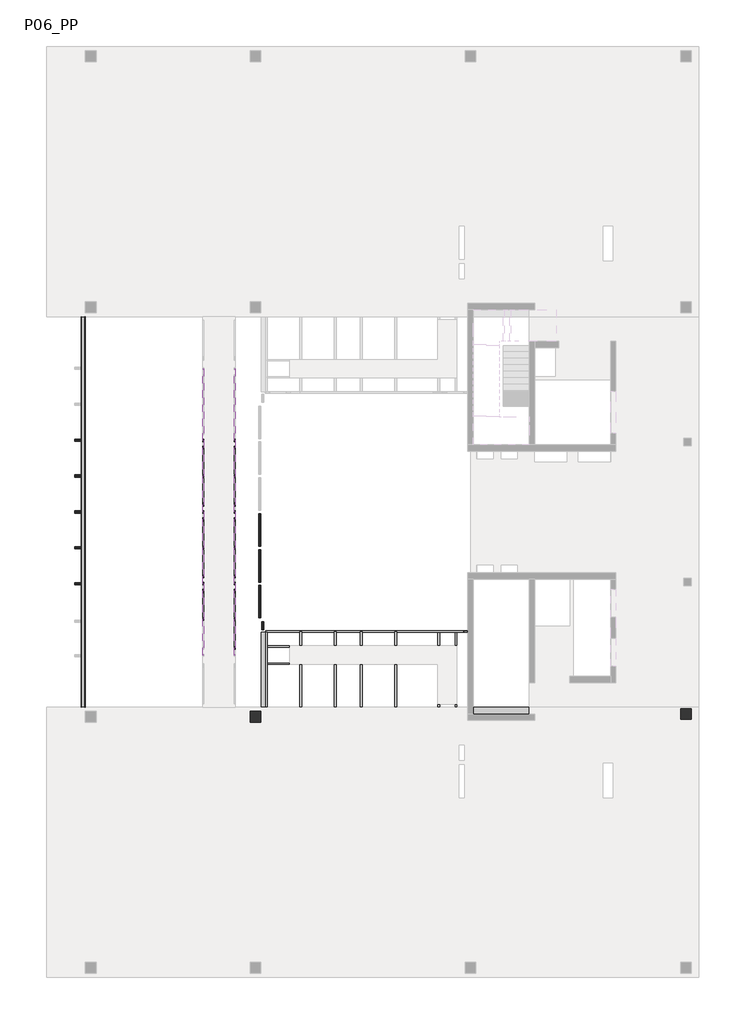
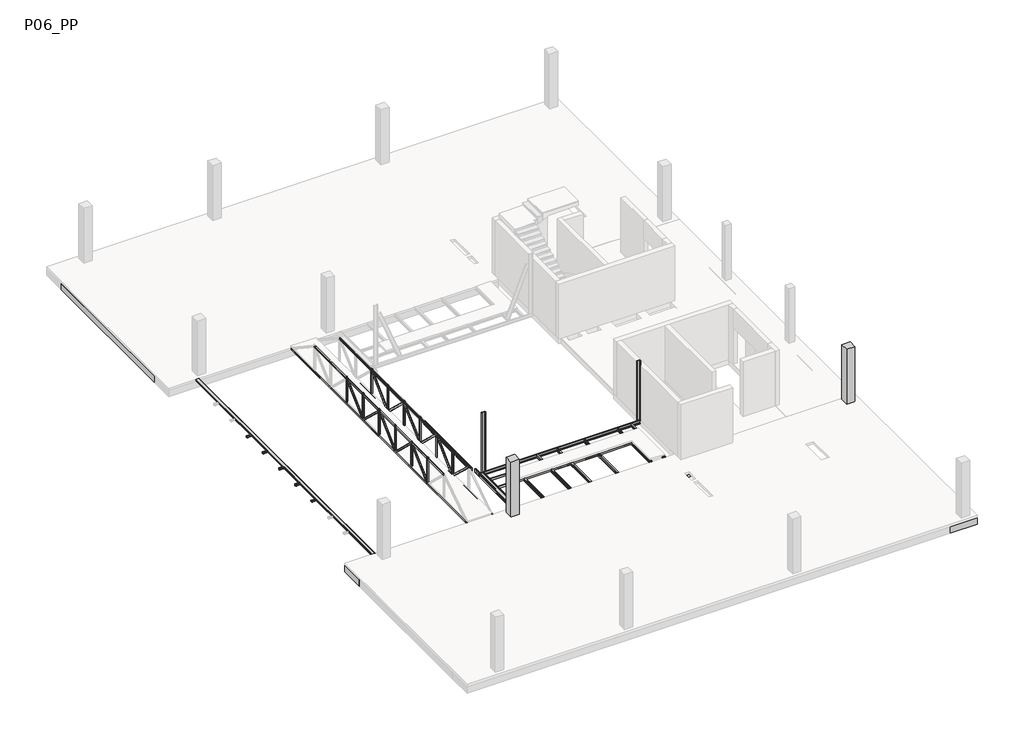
# One storey, part 2 of 4: 73 beams, 4 columns.
"""IFC4 building model written with IfcOpenShell, lengths in millimetres."""

from ifc_helpers import new_model, si_unit, frame, origin, place, context, project, spatial, polyline, outline, extrude, faceted_brep, transform, mapped, element, save
from components import heb_180x180_772428e8, m_hss_rectangular_hss_100x100_2c18bcb8, m_hss_rectangular_hss_100x100_facdedd0, m_hss_rectangular_hss_200x100_02db10bf, m_hss_rectangular_hss_200x100_fa2a969a, m_hss_rectangular_hss_200x100_f713b872, m_hss_rectangular_hss_200x100_80d761ef, m_hss_rectangular_hss_200x100_71414934, ub_universal_beams_ipe_160x82_5295c27c, ub_universal_beams_ipe_160x82_633517aa, upn100x50_d6a2ed97, upn100x50_1be225a0, upn100x50_5791aac8, upn100x50_3af1e818, upn100x50_d5197bc7, upn100x50_399e2a19, upn100x50_abb258e1, upn100x50_21efe051, upn100x50_1668a3c5, upn100x50_bf4f13ef, upn100x50_19d9e79e, upn100x50_c16297ee, upn100x50_7fc6c248, upn100x50_641ecec3, upn100x50_40f5e142, upn100x50_5b4b934f, upn100x50_6a18d03b, upn100x50_04313b9f, upn100x50_0c5ca5da, upn120x55_69f0bca1, upn120x55_efc8f615, upn120x55_2e91fe93, upn120x55_dd576345, upn120x55_d7d90911, upn200x75_1e45fa6e, upn_200x75_f21e3de1

model = new_model("IFC4")

# Units and contexts
model_context = context("Model", 3, world=origin())
ifc_project = project(units=[si_unit("LENGTHUNIT", "METRE", prefix="MILLI")], contexts=[model_context])

# Site, building, storey
site = spatial("IfcSite", under=ifc_project)
building = spatial("IfcBuilding", under=site)
storey = spatial("IfcBuildingStorey", under=building, Name="P06_PP", Elevation=29910.0)

# Beams
placement = place(None, origin())
heb_180x180_shape = heb_180x180_772428e8(model_context)
element("IfcBeam", 1, ObjectType="M_HP-Bearing Pile : HEB 180x180", at=placement, inside=storey, context=model_context, shape_type="MappedRepresentation", body=[
    mapped(heb_180x180_shape, transform((-23130.357866, -3177.0866476, 29820.0), x_axis=(0.0, -1.0, 0.0), y_axis=(1.0, 0.0, 0.0), z_axis=(0.0, 0.0, 1.0))),
])
element("IfcBeam", 2, ObjectType="M_Concrete-Rectangular Beam : 1500 x 550mm", at=placement, inside=storey, context=model_context, shape_type="Brep", body=[
    faceted_brep([(-10790.2146087, -4560.5861501, 29910.0), (-13390.3216429, -4560.5861501, 29910.0), (-13390.3216429, -4885.1039312, 29910.0), (-10790.2146087, -4885.1039312, 29910.0), (-33190.2931093, -6060.5861501, 29360.0), (-32490.2931093, -6060.5861501, 29360.0), (-31216.2708024, -6060.5861501, 29360.0), (-30816.2708024, -6060.5861501, 29360.0), (-29549.6041367, -6060.5861501, 29360.0), (-29149.6041367, -6060.5861501, 29360.0), (-27882.9374731, -6060.5861501, 29360.0), (-27482.9374731, -6060.5861501, 29360.0), (-26216.2708089, -6060.5861501, 29360.0), (-25816.2708089, -6060.5861501, 29360.0), (-24549.6041453, -6060.5861501, 29360.0), (-24149.6041453, -6060.5861501, 29360.0), (-22882.9374805, -6060.5861501, 29360.0), (-22482.9374805, -6060.5861501, 29360.0), (-21216.2708168, -6060.5861501, 29360.0), (-20816.2708168, -6060.5861501, 29360.0), (-19549.6041539, -6060.5861501, 29360.0), (-19149.6041539, -6060.5861501, 29360.0), (-17882.9374898, -6060.5861501, 29360.0), (-17482.9374898, -6060.5861501, 29360.0), (-16216.2708252, -6060.5861501, 29360.0), (-15816.2708252, -6060.5861501, 29360.0), (-14549.604161, -6060.5861501, 29360.0), (-14149.604161, -6060.5861501, 29360.0), (-12882.9374977, -6060.5861501, 29360.0), (-12482.9374977, -6060.5861501, 29360.0), (-11216.2708336, -6060.5861501, 29360.0), (-10816.2708336, -6060.5861501, 29360.0), (-9549.6041702, -6060.5861501, 29360.0), (-9149.6041702, -6060.5861501, 29360.0), (-7882.9375051, -6060.5861501, 29360.0), (-7482.9375051, -6060.5861501, 29360.0), (-6216.2708415, -6060.5861501, 29360.0), (-5816.2708415, -6060.5861501, 29360.0), (-4553.6343046, -6060.5861501, 29360.0), (-2913.6343046, -6060.5861501, 29360.0), (-2913.6343046, -6060.5861501, 29760.0), (-4553.6343046, -6060.5861501, 29760.0), (-5816.2708415, -6060.5861501, 29760.0), (-6216.2708415, -6060.5861501, 29760.0), (-7482.9375051, -6060.5861501, 29760.0), (-7882.9375051, -6060.5861501, 29760.0), (-9149.6041702, -6060.5861501, 29760.0), (-9549.6041702, -6060.5861501, 29760.0), (-10816.2708336, -6060.5861501, 29760.0), (-11216.2708336, -6060.5861501, 29760.0), (-12482.9374977, -6060.5861501, 29760.0), (-12882.9374977, -6060.5861501, 29760.0), (-14149.604161, -6060.5861501, 29760.0), (-14549.604161, -6060.5861501, 29760.0), (-15816.2708252, -6060.5861501, 29760.0), (-16216.2708252, -6060.5861501, 29760.0), (-17482.9374898, -6060.5861501, 29760.0), (-17882.9374898, -6060.5861501, 29760.0), (-19149.6041539, -6060.5861501, 29760.0), (-19549.6041539, -6060.5861501, 29760.0), (-20816.2708168, -6060.5861501, 29760.0), (-21216.2708168, -6060.5861501, 29760.0), (-22482.9374805, -6060.5861501, 29760.0), (-22882.9374805, -6060.5861501, 29760.0), (-24149.6041453, -6060.5861501, 29760.0), (-24549.6041453, -6060.5861501, 29760.0), (-25816.2708089, -6060.5861501, 29760.0), (-26216.2708089, -6060.5861501, 29760.0), (-27482.9374731, -6060.5861501, 29760.0), (-27882.9374731, -6060.5861501, 29760.0), (-29149.6041367, -6060.5861501, 29760.0), (-29549.6041367, -6060.5861501, 29760.0), (-30816.2708024, -6060.5861501, 29760.0), (-31216.2708024, -6060.5861501, 29760.0), (-32490.2931093, -6060.5861501, 29760.0), (-33190.2931093, -6060.5861501, 29760.0), (-33190.2931093, -4560.5861501, 29360.0), (-13640.3216429, -4560.5861501, 29360.0), (-13640.3216429, -5185.1039323, 29360.0), (-10540.3248425, -5185.1039323, 29360.0), (-10540.3248425, -4885.1039323, 29360.0), (-13390.3216429, -4885.1039323, 29360.0), (-13390.3216429, -4560.5861501, 29360.0), (-2913.6343046, -4560.5861501, 29360.0), (-3266.3636743, -5135.2475016, 29360.0), (-3266.3636607, -4635.2475016, 29360.0), (-3766.3636607, -4635.247488, 29360.0), (-3766.3636743, -5135.247488, 29360.0), (-23240.9136132, -5260.4373519, 29360.0), (-23240.913614, -4760.4373519, 29360.0), (-23740.913614, -4760.4373527, 29360.0), (-23740.9136132, -5260.4373527, 29360.0), (-30890.9555801, -5260.4373566, 29360.0), (-30890.9555797, -4760.4373566, 29360.0), (-31390.9555797, -4760.4373562, 29360.0), (-31390.9555801, -5260.4373562, 29360.0), (-13390.3216429, -4560.5861501, 29609.9777344), (-13640.3216429, -4560.5861501, 29609.9777344), (-33190.2931093, -4560.5861501, 29760.0), (-13390.3216429, -4560.5861501, 29760.0), (-10790.2146087, -4560.5861501, 29760.0), (-2913.6343046, -4560.5861501, 29760.0), (-2913.6343046, -4560.5861501, 29610.0), (-3266.3636743, -5135.2475016, 29610.0), (-3266.3636607, -4635.2475016, 29610.0), (-3766.3636743, -5135.247488, 29610.0), (-3766.3636607, -4635.247488, 29610.0), (-23240.9136132, -5260.4373519, 29610.0), (-23240.913614, -4760.4373519, 29610.0), (-23740.9136132, -5260.4373527, 29610.0), (-23740.913614, -4760.4373527, 29610.0), (-30890.9555801, -5260.4373566, 29610.0), (-30890.9555797, -4760.4373566, 29610.0), (-31390.9555801, -5260.4373562, 29610.0), (-31390.9555797, -4760.4373562, 29610.0), (-10540.3248425, -4885.1039323, 29609.9777344), (-13390.3216429, -4885.1039323, 29609.9777344), (-13640.3216429, -5185.1039323, 29609.9777344), (-10540.3248425, -5185.1039323, 29609.9777344), (-13640.3216429, -4885.1039323, 29609.9777344), (-13390.3216429, -4885.1039312, 29760.0), (-10790.2146087, -4885.1039312, 29760.0)], [[[0, 1, 2, 3]], [[4, 5, 6, 7, 8, 9, 10, 11, 12, 13, 14, 15, 16, 17, 18, 19, 20, 21, 22, 23, 24, 25, 26, 27, 28, 29, 30, 31, 32, 33, 34, 35, 36, 37, 38, 39, 40, 41, 42, 43, 44, 45, 46, 47, 48, 49, 50, 51, 52, 53, 54, 55, 56, 57, 58, 59, 60, 61, 62, 63, 64, 65, 66, 67, 68, 69, 70, 71, 72, 73, 74, 75]], [[4, 76, 77, 78, 79, 80, 81, 82, 83, 39, 38, 37, 36, 35, 34, 33, 32, 31, 30, 29, 28, 27, 26, 25, 24, 23, 22, 21, 20, 19, 18, 17, 16, 15, 14, 13, 12, 11, 10, 9, 8, 7, 6, 5], [84, 85, 86, 87], [88, 89, 90, 91], [92, 93, 94, 95]], [[83, 82, 96, 97, 77, 76, 98, 99, 1, 0, 100, 101, 102]], [[76, 4, 75, 98]], [[39, 83, 102, 101, 40]], [[103, 104, 85, 84]], [[105, 103, 84, 87]], [[106, 105, 87, 86]], [[104, 106, 86, 85]], [[104, 103, 105, 106]], [[107, 108, 89, 88]], [[109, 107, 88, 91]], [[110, 109, 91, 90]], [[108, 110, 90, 89]], [[108, 107, 109, 110]], [[111, 112, 93, 92]], [[113, 111, 92, 95]], [[114, 113, 95, 94]], [[112, 114, 94, 93]], [[112, 111, 113, 114]], [[80, 115, 116, 81]], [[117, 118, 79, 78]], [[118, 117, 119, 97, 96, 116, 115]], [[118, 115, 80, 79]], [[117, 78, 77, 97, 119]], [[116, 96, 82, 81]], [[120, 99, 98, 75, 74, 73, 72, 71, 70, 69, 68, 67, 66, 65, 64, 63, 62, 61, 60, 59, 58, 57, 56, 55, 54, 53, 52, 51, 50, 49, 48, 47, 46, 45, 44, 43, 42, 41, 40, 101, 100, 121]], [[121, 100, 0, 3]], [[99, 120, 2, 1]], [[120, 121, 3, 2]]]),
])
element("IfcBeam", 3, ObjectType="M_Concrete-Rectangular Beam : 1640 x 550mm", at=placement, inside=storey, context=model_context, shape_type="Brep", body=[
    faceted_brep([(-4553.6343046, -6060.5861501, 29360.0), (-4553.6343046, -15610.5871866, 29360.0), (-4553.6343046, -17110.5871866, 29360.0), (-4553.6343046, -17110.5871866, 29760.0), (-4553.6343046, -15610.5871866, 29760.0), (-4553.6343046, -6060.5861501, 29760.0), (-2913.6343046, -6060.5861501, 29360.0), (-2913.6343046, -17110.5871866, 29360.0), (-3266.3636558, -16910.4373098, 29360.0), (-3266.3636507, -16410.4373098, 29360.0), (-3766.3636507, -16410.4373046, 29360.0), (-3766.3636558, -16910.4373046, 29360.0), (-2913.6343046, -6060.5861501, 29760.0), (-2913.6343046, -17110.5871866, 29760.0), (-3266.3636558, -16910.4373098, 29610.0), (-3266.3636507, -16410.4373098, 29610.0), (-3766.3636558, -16910.4373046, 29610.0), (-3766.3636507, -16410.4373046, 29610.0)], [[[0, 1, 2, 3, 4, 5]], [[0, 6, 7, 2, 1], [8, 9, 10, 11]], [[7, 6, 12, 13]], [[6, 0, 5, 12]], [[2, 7, 13, 3]], [[14, 15, 9, 8]], [[16, 14, 8, 11]], [[17, 16, 11, 10]], [[15, 17, 10, 9]], [[15, 14, 16, 17]], [[5, 4, 3, 13, 12]]]),
])
element("IfcBeam", 4, ObjectType="M_Concrete-Rectangular Beam : 400 x 550mm", at=placement, inside=storey, context=model_context, shape_type="SweptSolid", body=[
    extrude(outline(polyline([(-14549.604161, -6060.5861501), (-14149.604161, -6060.5861501), (-14149.604161, -15610.5871866), (-14549.604161, -15610.5871866), (-14549.604161, -6060.5861501)])), frame((0.0, 0.0, 29360.0), z_axis=(0.0, 0.0, 1.0), x_axis=(1.0, 0.0, 0.0)), (0.0, 0.0, 1.0), 400.0),
])
element("IfcBeam", 5, ObjectType="M_Concrete-Rectangular Beam : 400 x 550mm", at=placement, inside=storey, context=model_context, shape_type="SweptSolid", body=[
    extrude(outline(polyline([(-12882.9374977, -6060.5861501), (-12482.9374977, -6060.5861501), (-12482.9374977, -15610.5871866), (-12882.9374977, -15610.5871866), (-12882.9374977, -6060.5861501)])), frame((0.0, 0.0, 29360.0), z_axis=(0.0, 0.0, 1.0), x_axis=(1.0, 0.0, 0.0)), (0.0, 0.0, 1.0), 400.0),
])
element("IfcBeam", 6, ObjectType="M_Concrete-Rectangular Beam : 400 x 550mm", at=placement, inside=storey, context=model_context, shape_type="SweptSolid", body=[
    extrude(outline(polyline([(-11216.2708336, -6060.5861501), (-10816.2708336, -6060.5861501), (-10816.2708336, -15610.5871866), (-11216.2708336, -15610.5871866), (-11216.2708336, -6060.5861501)])), frame((0.0, 0.0, 29360.0), z_axis=(0.0, 0.0, 1.0), x_axis=(1.0, 0.0, 0.0)), (0.0, 0.0, 1.0), 400.0),
])
element("IfcBeam", 7, ObjectType="M_Concrete-Rectangular Beam : 400 x 550mm", at=placement, inside=storey, context=model_context, shape_type="SweptSolid", body=[
    extrude(outline(polyline([(-9549.6041702, -6060.5861501), (-9149.6041702, -6060.5861501), (-9149.6041702, -15610.5871866), (-9549.6041702, -15610.5871866), (-9549.6041702, -6060.5861501)])), frame((0.0, 0.0, 29360.0), z_axis=(0.0, 0.0, 1.0), x_axis=(1.0, 0.0, 0.0)), (0.0, 0.0, 1.0), 400.0),
])
element("IfcBeam", 8, ObjectType="M_Concrete-Rectangular Beam : 400 x 550mm", at=placement, inside=storey, context=model_context, shape_type="SweptSolid", body=[
    extrude(outline(polyline([(-7882.9375051, -6060.5861501), (-7482.9375051, -6060.5861501), (-7482.9375051, -15610.5871866), (-7882.9375051, -15610.5871866), (-7882.9375051, -6060.5861501)])), frame((0.0, 0.0, 29360.0), z_axis=(0.0, 0.0, 1.0), x_axis=(1.0, 0.0, 0.0)), (0.0, 0.0, 1.0), 400.0),
])
element("IfcBeam", 9, ObjectType="M_Concrete-Rectangular Beam : 400 x 550mm", at=placement, inside=storey, context=model_context, shape_type="SweptSolid", body=[
    extrude(outline(polyline([(-6216.2708415, -6060.5861501), (-5816.2708415, -6060.5861501), (-5816.2708415, -15610.5871866), (-6216.2708415, -15610.5871866), (-6216.2708415, -6060.5861501)])), frame((0.0, 0.0, 29360.0), z_axis=(0.0, 0.0, 1.0), x_axis=(1.0, 0.0, 0.0)), (0.0, 0.0, 1.0), 400.0),
])
element("IfcBeam", 10, ObjectType="M_Concrete-Rectangular Beam : 700 x 550mm", at=placement, inside=storey, context=model_context, shape_type="SweptSolid", body=[
    extrude(outline(polyline([(-32490.2931069, 15039.4134441), (-33190.2931069, 15039.4134441), (-33190.2931069, 24589.4144807), (-32490.2931069, 24589.4144807), (-32490.2931069, 15039.4134441)])), frame((0.0, 0.0, 29360.0), z_axis=(0.0, 0.0, 1.0), x_axis=(1.0, 0.0, 0.0)), (0.0, 0.0, 1.0), 400.0),
])
m_hss_rectangular_hss_100x100_shape = m_hss_rectangular_hss_100x100_2c18bcb8(model_context)
element("IfcBeam", 11, ObjectType="M_HSS Rectangular : HSS 100x100", at=placement, inside=storey, context=model_context, shape_type="MappedRepresentation", body=[
    mapped(m_hss_rectangular_hss_100x100_shape, transform((-31731.1858338, 7823.2960679, 29860.0), x_axis=(-1.0, -1.6625772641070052e-09, 0.0), y_axis=(1.6625772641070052e-09, -1.0, 0.0), z_axis=(0.0, 0.0, 1.0))),
])
element("IfcBeam", 12, ObjectType="M_HSS Rectangular : HSS 100x100", at=placement, inside=storey, context=model_context, shape_type="MappedRepresentation", body=[
    mapped(m_hss_rectangular_hss_100x100_shape, transform((-31731.1858338, 4489.8960682, 29860.0), x_axis=(-1.0, 0.0, 0.0), y_axis=(0.0, -1.0, 0.0), z_axis=(0.0, 0.0, 1.0))),
])
element("IfcBeam", 13, ObjectType="M_HSS Rectangular : HSS 100x100", at=placement, inside=storey, context=model_context, shape_type="MappedRepresentation", body=[
    mapped(m_hss_rectangular_hss_100x100_shape, transform((-31731.1858338, 1156.4960679, 29860.0), x_axis=(-1.0, 3.3252003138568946e-09, 0.0), y_axis=(-3.3252003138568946e-09, -1.0, 0.0), z_axis=(0.0, 0.0, 1.0))),
])
m_hss_rectangular_hss_100x100_2_shape = m_hss_rectangular_hss_100x100_facdedd0(model_context)
element("IfcBeam", 14, ObjectType="M_HSS Rectangular : HSS 100x100", at=placement, inside=storey, context=model_context, shape_type="MappedRepresentation", body=[
    mapped(m_hss_rectangular_hss_100x100_2_shape, transform((-31731.1858336, 6156.5960677, 29860.0), x_axis=(-1.0, 0.0, 0.0), y_axis=(0.0, -1.0, 0.0), z_axis=(0.0, 0.0, 1.0))),
])
element("IfcBeam", 15, ObjectType="M_HSS Rectangular : HSS 100x100", at=placement, inside=storey, context=model_context, shape_type="MappedRepresentation", body=[
    mapped(m_hss_rectangular_hss_100x100_2_shape, transform((-31731.1858336, 2823.1960678, 29860.0), x_axis=(-1.0, 0.0, 0.0), y_axis=(0.0, -1.0, 0.0), z_axis=(0.0, 0.0, 1.0))),
])
m_hss_rectangular_hss_200x100_shape = m_hss_rectangular_hss_200x100_02db10bf(model_context)
element("IfcBeam", 16, ObjectType="M_HSS Rectangular : HSS 200x100", at=placement, inside=storey, context=model_context, shape_type="MappedRepresentation", body=[
    mapped(m_hss_rectangular_hss_200x100_shape, transform((-23290.3174148, 1989.4143425, 29810.0), x_axis=(-3.182446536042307e-08, -0.9999999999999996, 0.0), y_axis=(0.9999999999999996, -3.182446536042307e-08, 0.0), z_axis=(0.0, 0.0, 1.0))),
])
m_hss_rectangular_hss_200x100_2_shape = m_hss_rectangular_hss_200x100_fa2a969a(model_context)
element("IfcBeam", 17, ObjectType="M_HSS Rectangular : HSS 200x100", at=placement, inside=storey, context=model_context, shape_type="MappedRepresentation", body=[
    mapped(m_hss_rectangular_hss_200x100_2_shape, transform((-23290.3173618, 3656.3218509, 29810.0), x_axis=(-3.182446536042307e-08, -0.9999999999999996, 0.0), y_axis=(0.9999999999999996, -3.182446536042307e-08, 0.0), z_axis=(0.0, 0.0, 1.0))),
])
m_hss_rectangular_hss_200x100_3_shape = m_hss_rectangular_hss_200x100_f713b872(model_context)
element("IfcBeam", 18, ObjectType="M_HSS Rectangular : HSS 200x100", at=placement, inside=storey, context=model_context, shape_type="MappedRepresentation", body=[
    mapped(m_hss_rectangular_hss_200x100_3_shape, transform((-23290.3174678, 322.7478039, 29810.0), x_axis=(-3.182446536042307e-08, -0.9999999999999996, 0.0), y_axis=(0.9999999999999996, -3.182446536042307e-08, 0.0), z_axis=(0.0, 0.0, 1.0))),
])
m_hss_rectangular_hss_200x100_4_shape = m_hss_rectangular_hss_200x100_80d761ef(model_context)
element("IfcBeam", 19, ObjectType="M_HSS Rectangular : HSS 200x100", at=placement, inside=storey, context=model_context, shape_type="MappedRepresentation", body=[
    mapped(m_hss_rectangular_hss_200x100_4_shape, transform((-23160.3171618, -812.6043939, 29810.0), x_axis=(0.0, -1.0, 0.0), y_axis=(1.0, 0.0, 0.0), z_axis=(0.0, 0.0, 1.0))),
])
m_hss_rectangular_hss_200x100_5_shape = m_hss_rectangular_hss_200x100_71414934(model_context)
element("IfcBeam", 20, ObjectType="M_HSS Rectangular : HSS 200x100", at=placement, inside=storey, context=model_context, shape_type="MappedRepresentation", body=[
    mapped(m_hss_rectangular_hss_200x100_5_shape, transform((-31490.8768083, 4489.413647, 29860.0), x_axis=(-2.4587416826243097e-09, -1.0, 0.0), y_axis=(0.0, 0.0, -1.0), z_axis=(1.0, -2.4587416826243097e-09, 0.0))),
])
ub_universal_beams_ipe_160x82_shape = ub_universal_beams_ipe_160x82_5295c27c(model_context)
element("IfcBeam", 21, ObjectType="UB-Universal Beams : IPE 160x82", at=placement, inside=storey, context=model_context, shape_type="MappedRepresentation", body=[
    mapped(ub_universal_beams_ipe_160x82_shape, transform((-14190.4459331, -3192.6367352, 29830.0), x_axis=(0.0, 1.0, 0.0), y_axis=(-1.0, 0.0, 0.0), z_axis=(0.0, 0.0, 1.0))),
])
element("IfcBeam", 22, ObjectType="UB-Universal Beams : IPE 160x82", at=placement, inside=storey, context=model_context, shape_type="MappedRepresentation", body=[
    mapped(ub_universal_beams_ipe_160x82_shape, transform((-14990.4459326, -3192.6367225, 29830.0), x_axis=(0.0, 1.0, 0.0), y_axis=(-1.0, 0.0, 0.0), z_axis=(0.0, 0.0, 1.0))),
])
element("IfcBeam", 23, ObjectType="UB-Universal Beams : IPE 160x82", at=placement, inside=storey, context=model_context, shape_type="MappedRepresentation", body=[
    mapped(ub_universal_beams_ipe_160x82_shape, transform((-16990.4459316, -3192.6366908, 29830.0), x_axis=(0.0, 1.0, 0.0), y_axis=(-1.0, 0.0, 0.0), z_axis=(0.0, 0.0, 1.0))),
])
element("IfcBeam", 24, ObjectType="UB-Universal Beams : IPE 160x82", at=placement, inside=storey, context=model_context, shape_type="MappedRepresentation", body=[
    mapped(ub_universal_beams_ipe_160x82_shape, transform((-18590.4459308, -3192.6366654, 29830.0), x_axis=(0.0, 1.0, 0.0), y_axis=(-1.0, 0.0, 0.0), z_axis=(0.0, 0.0, 1.0))),
])
element("IfcBeam", 25, ObjectType="UB-Universal Beams : IPE 160x82", at=placement, inside=storey, context=model_context, shape_type="MappedRepresentation", body=[
    mapped(ub_universal_beams_ipe_160x82_shape, transform((-19790.4459314, -3192.6366464, 29830.0), x_axis=(0.0, 1.0, 0.0), y_axis=(-1.0, 0.0, 0.0), z_axis=(0.0, 0.0, 1.0))),
])
element("IfcBeam", 26, ObjectType="UB-Universal Beams : IPE 160x82", at=placement, inside=storey, context=model_context, shape_type="MappedRepresentation", body=[
    mapped(ub_universal_beams_ipe_160x82_shape, transform((-21390.4459306, -3192.636621, 29830.0), x_axis=(0.0, 1.0, 0.0), y_axis=(-1.0, 0.0, 0.0), z_axis=(0.0, 0.0, 1.0))),
])
ub_universal_beams_ipe_160x82_2_shape = ub_universal_beams_ipe_160x82_633517aa(model_context)
element("IfcBeam", 27, ObjectType="UB-Universal Beams : IPE 160x82", at=placement, inside=storey, context=model_context, shape_type="MappedRepresentation", body=[
    mapped(ub_universal_beams_ipe_160x82_2_shape, transform((-22991.1860553, -3192.6365957, 29830.0), x_axis=(0.0, 1.0, 0.0), y_axis=(-1.0, 0.0, 0.0), z_axis=(0.0, 0.0, 1.0))),
])
upn100x50_shape = upn100x50_d6a2ed97(model_context)
element("IfcBeam", 28, ObjectType="M_MC Shapes : UPN100x50", at=placement, inside=storey, context=model_context, shape_type="MappedRepresentation", body=[
    mapped(upn100x50_shape, transform((-24434.6492146, 4489.4140005, 29860.0), x_axis=(0.0, -1.0, 0.0), y_axis=(1.0, 0.0, 0.0), z_axis=(0.0, 0.0, 1.0))),
])
upn100x50_2_shape = upn100x50_1be225a0(model_context)
element("IfcBeam", 29, ObjectType="M_MC Shapes : UPN100x50", at=placement, inside=storey, context=model_context, shape_type="MappedRepresentation", body=[
    mapped(upn100x50_2_shape, transform((-24434.6492146, 4489.4138973, 31440.0), x_axis=(0.0, -1.0, 0.0), y_axis=(1.0, 0.0, 0.0), z_axis=(0.0, 0.0, 1.0))),
])
upn100x50_3_shape = upn100x50_5791aac8(model_context)
element("IfcBeam", 30, ObjectType="M_MC Shapes : UPN100x50", at=placement, inside=storey, context=model_context, shape_type="MappedRepresentation", body=[
    mapped(upn100x50_3_shape, transform((-25934.5198148, 4489.4140005, 29860.0), x_axis=(0.0, -1.0, 0.0), y_axis=(1.0, 0.0, 0.0), z_axis=(0.0, 0.0, 1.0))),
])
upn100x50_4_shape = upn100x50_3af1e818(model_context)
element("IfcBeam", 31, ObjectType="M_MC Shapes : UPN100x50", at=placement, inside=storey, context=model_context, shape_type="MappedRepresentation", body=[
    mapped(upn100x50_4_shape, transform((-25934.5198148, 4489.4138973, 31440.0), x_axis=(0.0, -1.0, 0.0), y_axis=(1.0, 0.0, 0.0), z_axis=(0.0, 0.0, 1.0))),
])
upn100x50_5_shape = upn100x50_d5197bc7(model_context)
element("IfcBeam", 32, ObjectType="M_MC Shapes : UPN100x50", at=placement, inside=storey, context=model_context, shape_type="MappedRepresentation", body=[
    mapped(upn100x50_5_shape, transform((-25184.5845147, 7823.5638973, 29860.0), x_axis=(1.0, 0.0, 0.0), y_axis=(0.0, 1.0, 0.0), z_axis=(0.0, 0.0, 1.0))),
])
element("IfcBeam", 33, ObjectType="M_MC Shapes : UPN100x50", at=placement, inside=storey, context=model_context, shape_type="MappedRepresentation", body=[
    mapped(upn100x50_5_shape, transform((-25184.5845147, 6163.5638973, 29860.0), x_axis=(1.0, 0.0, 0.0), y_axis=(0.0, 1.0, 0.0), z_axis=(0.0, 0.0, 1.0))),
])
element("IfcBeam", 34, ObjectType="M_MC Shapes : UPN100x50", at=placement, inside=storey, context=model_context, shape_type="MappedRepresentation", body=[
    mapped(upn100x50_5_shape, transform((-25184.5845147, 4503.5638973, 29860.0), x_axis=(1.0, 0.0, 0.0), y_axis=(0.0, 1.0, 0.0), z_axis=(0.0, 0.0, 1.0))),
])
element("IfcBeam", 35, ObjectType="M_MC Shapes : UPN100x50", at=placement, inside=storey, context=model_context, shape_type="MappedRepresentation", body=[
    mapped(upn100x50_5_shape, transform((-25184.5845147, 2843.5638973, 29860.0), x_axis=(1.0, 0.0, 0.0), y_axis=(0.0, 1.0, 0.0), z_axis=(0.0, 0.0, 1.0))),
])
element("IfcBeam", 36, ObjectType="M_MC Shapes : UPN100x50", at=placement, inside=storey, context=model_context, shape_type="MappedRepresentation", body=[
    mapped(upn100x50_5_shape, transform((-25184.5845147, 1183.5638973, 29860.0), x_axis=(1.0, 0.0, 0.0), y_axis=(0.0, 1.0, 0.0), z_axis=(0.0, 0.0, 1.0))),
])
element("IfcBeam", 37, ObjectType="M_MC Shapes : UPN100x50", at=placement, inside=storey, context=model_context, shape_type="MappedRepresentation", body=[
    mapped(upn100x50_5_shape, transform((-25184.5845147, -476.4361027, 29860.0), x_axis=(1.0, 0.0, 0.0), y_axis=(0.0, 1.0, 0.0), z_axis=(0.0, 0.0, 1.0))),
])
upn100x50_6_shape = upn100x50_399e2a19(model_context)
element("IfcBeam", 38, ObjectType="M_MC Shapes : UPN100x50", at=placement, inside=storey, context=model_context, shape_type="MappedRepresentation", body=[
    mapped(upn100x50_6_shape, transform((-25906.3198148, 7809.4140005, 30750.0), x_axis=(0.0, 0.0, 1.0), y_axis=(-1.0, 0.0, 0.0), z_axis=(0.0, -1.0, 0.0))),
])
element("IfcBeam", 39, ObjectType="M_MC Shapes : UPN100x50", at=placement, inside=storey, context=model_context, shape_type="MappedRepresentation", body=[
    mapped(upn100x50_6_shape, transform((-25906.3198148, 4489.4140005, 30750.0), x_axis=(0.0, 0.0, 1.0), y_axis=(-1.0, 0.0, 0.0), z_axis=(0.0, -1.0, 0.0))),
])
upn100x50_7_shape = upn100x50_abb258e1(model_context)
element("IfcBeam", 40, ObjectType="M_MC Shapes : UPN100x50", at=placement, inside=storey, context=model_context, shape_type="MappedRepresentation", body=[
    mapped(upn100x50_7_shape, transform((-24462.8492146, 7809.4140005, 30750.0), x_axis=(0.0, 0.0, 1.0), y_axis=(-1.0, 0.0, 0.0), z_axis=(0.0, -1.0, 0.0))),
])
element("IfcBeam", 41, ObjectType="M_MC Shapes : UPN100x50", at=placement, inside=storey, context=model_context, shape_type="MappedRepresentation", body=[
    mapped(upn100x50_7_shape, transform((-24462.8492146, 4489.4140005, 30750.0), x_axis=(0.0, 0.0, 1.0), y_axis=(-1.0, 0.0, 0.0), z_axis=(0.0, -1.0, 0.0))),
])
upn100x50_8_shape = upn100x50_21efe051(model_context)
element("IfcBeam", 42, ObjectType="M_MC Shapes : UPN100x50", at=placement, inside=storey, context=model_context, shape_type="MappedRepresentation", body=[
    mapped(upn100x50_8_shape, transform((-25906.3198148, 5269.4749296, 30697.5323686), x_axis=(0.0, -0.7243454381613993, 0.6894372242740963), y_axis=(-1.0, 0.0, 0.0), z_axis=(0.0, -0.6894372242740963, -0.7243454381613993))),
])
element("IfcBeam", 43, ObjectType="M_MC Shapes : UPN100x50", at=placement, inside=storey, context=model_context, shape_type="MappedRepresentation", body=[
    mapped(upn100x50_8_shape, transform((-25906.3198148, 3709.3530713, 30697.5323686), x_axis=(0.0, -0.7243454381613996, -0.6894372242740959), y_axis=(-1.0, 0.0, 0.0), z_axis=(0.0, 0.6894372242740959, -0.7243454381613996))),
])
upn100x50_9_shape = upn100x50_1668a3c5(model_context)
element("IfcBeam", 44, ObjectType="M_MC Shapes : UPN100x50", at=placement, inside=storey, context=model_context, shape_type="MappedRepresentation", body=[
    mapped(upn100x50_9_shape, transform((-24462.8492146, 5269.4749296, 30697.5323686), x_axis=(0.0, -0.7243454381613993, 0.6894372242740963), y_axis=(-1.0, 0.0, 0.0), z_axis=(0.0, -0.6894372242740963, -0.7243454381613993))),
])
element("IfcBeam", 45, ObjectType="M_MC Shapes : UPN100x50", at=placement, inside=storey, context=model_context, shape_type="MappedRepresentation", body=[
    mapped(upn100x50_9_shape, transform((-24462.8492146, 3709.3530713, 30697.5323686), x_axis=(0.0, -0.7243454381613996, -0.6894372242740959), y_axis=(-1.0, 0.0, 0.0), z_axis=(0.0, 0.6894372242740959, -0.7243454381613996))),
])
upn100x50_10_shape = upn100x50_bf4f13ef(model_context)
element("IfcBeam", 46, ObjectType="M_MC Shapes : UPN100x50", at=placement, inside=storey, context=model_context, shape_type="MappedRepresentation", body=[
    mapped(upn100x50_10_shape, transform((-25906.3198148, 6149.4140005, 30750.0), x_axis=(0.0, 0.0, 1.0), y_axis=(-1.0, 0.0, 0.0), z_axis=(0.0, -1.0, 0.0))),
])
element("IfcBeam", 47, ObjectType="M_MC Shapes : UPN100x50", at=placement, inside=storey, context=model_context, shape_type="MappedRepresentation", body=[
    mapped(upn100x50_10_shape, transform((-25906.3198148, 2829.4140005, 30750.0), x_axis=(0.0, 0.0, 1.0), y_axis=(-1.0, 0.0, 0.0), z_axis=(0.0, -1.0, 0.0))),
])
element("IfcBeam", 48, ObjectType="M_MC Shapes : UPN100x50", at=placement, inside=storey, context=model_context, shape_type="MappedRepresentation", body=[
    mapped(upn100x50_10_shape, transform((-25906.3198148, -490.5859995, 30750.0), x_axis=(0.0, 0.0, 1.0), y_axis=(-1.0, 0.0, 0.0), z_axis=(0.0, -1.0, 0.0))),
])
upn100x50_11_shape = upn100x50_19d9e79e(model_context)
element("IfcBeam", 49, ObjectType="M_MC Shapes : UPN100x50", at=placement, inside=storey, context=model_context, shape_type="MappedRepresentation", body=[
    mapped(upn100x50_11_shape, transform((-25906.3198148, 1169.4140005, 30750.0), x_axis=(0.0, 0.0, 1.0), y_axis=(-1.0, 0.0, 0.0), z_axis=(0.0, -1.0, 0.0))),
])
upn100x50_12_shape = upn100x50_c16297ee(model_context)
element("IfcBeam", 50, ObjectType="M_MC Shapes : UPN100x50", at=placement, inside=storey, context=model_context, shape_type="MappedRepresentation", body=[
    mapped(upn100x50_12_shape, transform((-25906.3198148, 7029.3530713, 30697.5323686), x_axis=(0.0, -0.7243454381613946, -0.6894372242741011), y_axis=(-1.0, 0.0, 0.0), z_axis=(0.0, 0.6894372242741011, -0.7243454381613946))),
])
upn100x50_13_shape = upn100x50_7fc6c248(model_context)
element("IfcBeam", 51, ObjectType="M_MC Shapes : UPN100x50", at=placement, inside=storey, context=model_context, shape_type="MappedRepresentation", body=[
    mapped(upn100x50_13_shape, transform((-25906.3198148, 1949.4749296, 30697.5323686), x_axis=(0.0, -0.724345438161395, 0.6894372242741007), y_axis=(-1.0, 0.0, 0.0), z_axis=(0.0, -0.6894372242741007, -0.724345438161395))),
])
upn100x50_14_shape = upn100x50_641ecec3(model_context)
element("IfcBeam", 52, ObjectType="M_MC Shapes : UPN100x50", at=placement, inside=storey, context=model_context, shape_type="MappedRepresentation", body=[
    mapped(upn100x50_14_shape, transform((-25906.3198148, 389.3530713, 30697.5323686), x_axis=(0.0, -0.7243454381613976, -0.6894372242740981), y_axis=(-1.0, 0.0, 0.0), z_axis=(0.0, 0.6894372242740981, -0.7243454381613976))),
])
upn100x50_15_shape = upn100x50_40f5e142(model_context)
element("IfcBeam", 53, ObjectType="M_MC Shapes : UPN100x50", at=placement, inside=storey, context=model_context, shape_type="MappedRepresentation", body=[
    mapped(upn100x50_15_shape, transform((-24462.8492146, 6149.4140005, 30750.0), x_axis=(0.0, 0.0, 1.0), y_axis=(-1.0, 0.0, 0.0), z_axis=(0.0, -1.0, 0.0))),
])
element("IfcBeam", 54, ObjectType="M_MC Shapes : UPN100x50", at=placement, inside=storey, context=model_context, shape_type="MappedRepresentation", body=[
    mapped(upn100x50_15_shape, transform((-24462.8492146, 2829.4140005, 30750.0), x_axis=(0.0, 0.0, 1.0), y_axis=(-1.0, 0.0, 0.0), z_axis=(0.0, -1.0, 0.0))),
])
element("IfcBeam", 55, ObjectType="M_MC Shapes : UPN100x50", at=placement, inside=storey, context=model_context, shape_type="MappedRepresentation", body=[
    mapped(upn100x50_15_shape, transform((-24462.8492146, -490.5859995, 30750.0), x_axis=(0.0, 0.0, 1.0), y_axis=(-1.0, 0.0, 0.0), z_axis=(0.0, -1.0, 0.0))),
])
upn100x50_16_shape = upn100x50_5b4b934f(model_context)
element("IfcBeam", 56, ObjectType="M_MC Shapes : UPN100x50", at=placement, inside=storey, context=model_context, shape_type="MappedRepresentation", body=[
    mapped(upn100x50_16_shape, transform((-24462.8492146, 1169.4140005, 30750.0), x_axis=(0.0, 0.0, 1.0), y_axis=(-1.0, 0.0, 0.0), z_axis=(0.0, -1.0, 0.0))),
])
upn100x50_17_shape = upn100x50_6a18d03b(model_context)
element("IfcBeam", 57, ObjectType="M_MC Shapes : UPN100x50", at=placement, inside=storey, context=model_context, shape_type="MappedRepresentation", body=[
    mapped(upn100x50_17_shape, transform((-24462.8492146, 7029.3530713, 30697.5323686), x_axis=(0.0, -0.7243454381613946, -0.6894372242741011), y_axis=(-1.0, 0.0, 0.0), z_axis=(0.0, 0.6894372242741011, -0.7243454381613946))),
])
upn100x50_18_shape = upn100x50_04313b9f(model_context)
element("IfcBeam", 58, ObjectType="M_MC Shapes : UPN100x50", at=placement, inside=storey, context=model_context, shape_type="MappedRepresentation", body=[
    mapped(upn100x50_18_shape, transform((-24462.8492146, 1949.4749296, 30697.5323686), x_axis=(0.0, -0.724345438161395, 0.6894372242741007), y_axis=(-1.0, 0.0, 0.0), z_axis=(0.0, -0.6894372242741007, -0.724345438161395))),
])
element("IfcBeam", 59, ObjectType="M_MC Shapes : UPN100x50", at=placement, inside=storey, context=model_context, shape_type="MappedRepresentation", body=[
    mapped(upn100x50_18_shape, transform((-24462.8492146, -1370.5250704, 30697.5323686), x_axis=(0.0, -0.724345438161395, 0.6894372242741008), y_axis=(-1.0, 0.0, 0.0), z_axis=(0.0, -0.6894372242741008, -0.724345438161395))),
])
upn100x50_19_shape = upn100x50_0c5ca5da(model_context)
element("IfcBeam", 60, ObjectType="M_MC Shapes : UPN100x50", at=placement, inside=storey, context=model_context, shape_type="MappedRepresentation", body=[
    mapped(upn100x50_19_shape, transform((-24462.8492146, 389.3530713, 30697.5323686), x_axis=(0.0, -0.7243454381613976, -0.6894372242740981), y_axis=(-1.0, 0.0, 0.0), z_axis=(0.0, 0.6894372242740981, -0.7243454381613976))),
])
upn120x55_shape = upn120x55_69f0bca1(model_context)
element("IfcBeam", 61, ObjectType="M_MC Shapes : UPN120x55", at=placement, inside=storey, context=model_context, shape_type="MappedRepresentation", body=[
    mapped(upn120x55_shape, transform((-14590.4459328, -1772.1875003, 29850.0), x_axis=(0.9999999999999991, -4.319868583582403e-08, 0.0), y_axis=(4.319868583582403e-08, 0.9999999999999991, 0.0), z_axis=(0.0, 0.0, 1.0))),
])
element("IfcBeam", 62, ObjectType="M_MC Shapes : UPN120x55", at=placement, inside=storey, context=model_context, shape_type="MappedRepresentation", body=[
    mapped(upn120x55_shape, transform((-14590.4459328, -2572.1874803, 29850.0), x_axis=(0.9999999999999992, -4.0441322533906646e-08, 0.0), y_axis=(4.0441322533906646e-08, 0.9999999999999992, 0.0), z_axis=(0.0, 0.0, 1.0))),
])
upn120x55_2_shape = upn120x55_efc8f615(model_context)
element("IfcBeam", 63, ObjectType="M_MC Shapes : UPN120x55", at=placement, inside=storey, context=model_context, shape_type="MappedRepresentation", body=[
    mapped(upn120x55_2_shape, transform((-15990.4459321, -2572.1874237, 29850.0), x_axis=(0.9999999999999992, -4.0441322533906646e-08, 0.0), y_axis=(4.0441322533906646e-08, 0.9999999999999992, 0.0), z_axis=(0.0, 0.0, 1.0))),
])
element("IfcBeam", 64, ObjectType="M_MC Shapes : UPN120x55", at=placement, inside=storey, context=model_context, shape_type="MappedRepresentation", body=[
    mapped(upn120x55_2_shape, transform((-15990.4459321, -1772.1874398, 29850.0), x_axis=(0.9999999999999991, -4.319868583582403e-08, 0.0), y_axis=(4.319868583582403e-08, 0.9999999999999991, 0.0), z_axis=(0.0, 0.0, 1.0))),
])
upn120x55_3_shape = upn120x55_2e91fe93(model_context)
element("IfcBeam", 65, ObjectType="M_MC Shapes : UPN120x55", at=placement, inside=storey, context=model_context, shape_type="MappedRepresentation", body=[
    mapped(upn120x55_3_shape, transform((-20590.445931, -2572.1872377, 29850.0), x_axis=(0.9999999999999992, -4.0441322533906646e-08, 0.0), y_axis=(4.0441322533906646e-08, 0.9999999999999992, 0.0), z_axis=(0.0, 0.0, 1.0))),
])
element("IfcBeam", 66, ObjectType="M_MC Shapes : UPN120x55", at=placement, inside=storey, context=model_context, shape_type="MappedRepresentation", body=[
    mapped(upn120x55_3_shape, transform((-17790.4459312, -2572.1873509, 29850.0), x_axis=(0.9999999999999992, -4.0441322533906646e-08, 0.0), y_axis=(4.0441322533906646e-08, 0.9999999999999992, 0.0), z_axis=(0.0, 0.0, 1.0))),
])
element("IfcBeam", 67, ObjectType="M_MC Shapes : UPN120x55", at=placement, inside=storey, context=model_context, shape_type="MappedRepresentation", body=[
    mapped(upn120x55_3_shape, transform((-20590.445931, -1772.1872411, 29850.0), x_axis=(0.9999999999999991, -4.319868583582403e-08, 0.0), y_axis=(4.319868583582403e-08, 0.9999999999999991, 0.0), z_axis=(0.0, 0.0, 1.0))),
])
element("IfcBeam", 68, ObjectType="M_MC Shapes : UPN120x55", at=placement, inside=storey, context=model_context, shape_type="MappedRepresentation", body=[
    mapped(upn120x55_3_shape, transform((-17790.4459312, -1772.1873621, 29850.0), x_axis=(0.9999999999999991, -4.319868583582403e-08, 0.0), y_axis=(4.319868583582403e-08, 0.9999999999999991, 0.0), z_axis=(0.0, 0.0, 1.0))),
])
upn120x55_4_shape = upn120x55_dd576345(model_context)
element("IfcBeam", 69, ObjectType="M_MC Shapes : UPN120x55", at=placement, inside=storey, context=model_context, shape_type="MappedRepresentation", body=[
    mapped(upn120x55_4_shape, transform((-19190.4459311, -2572.1872943, 29850.0), x_axis=(0.9999999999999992, -4.0441322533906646e-08, 0.0), y_axis=(4.0441322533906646e-08, 0.9999999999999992, 0.0), z_axis=(0.0, 0.0, 1.0))),
])
element("IfcBeam", 70, ObjectType="M_MC Shapes : UPN120x55", at=placement, inside=storey, context=model_context, shape_type="MappedRepresentation", body=[
    mapped(upn120x55_4_shape, transform((-19190.4459311, -1772.1873016, 29850.0), x_axis=(0.9999999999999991, -4.319868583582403e-08, 0.0), y_axis=(4.319868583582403e-08, 0.9999999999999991, 0.0), z_axis=(0.0, 0.0, 1.0))),
])
upn120x55_5_shape = upn120x55_d7d90911(model_context)
element("IfcBeam", 71, ObjectType="M_MC Shapes : UPN120x55", at=placement, inside=storey, context=model_context, shape_type="MappedRepresentation", body=[
    mapped(upn120x55_5_shape, transform((-22165.4459321, -2572.187174, 29850.0), x_axis=(0.9999999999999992, -4.0441322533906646e-08, 0.0), y_axis=(4.0441322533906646e-08, 0.9999999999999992, 0.0), z_axis=(0.0, 0.0, 1.0))),
])
element("IfcBeam", 72, ObjectType="M_MC Shapes : UPN120x55", at=placement, inside=storey, context=model_context, shape_type="MappedRepresentation", body=[
    mapped(upn120x55_5_shape, transform((-22165.4459321, -1772.1871731, 29850.0), x_axis=(0.9999999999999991, -4.319868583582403e-08, 0.0), y_axis=(4.319868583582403e-08, 0.9999999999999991, 0.0), z_axis=(0.0, 0.0, 1.0))),
])
upn200x75_shape = upn200x75_1e45fa6e(model_context)
element("IfcBeam", 73, ObjectType="M_MC Shapes : UPN200x75", at=placement, inside=storey, context=model_context, shape_type="MappedRepresentation", body=[
    mapped(upn200x75_shape, transform((-18278.251786, -1021.487191, 29810.0), x_axis=(0.9999999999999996, -3.175673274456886e-08, 0.0), y_axis=(3.175673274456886e-08, 0.9999999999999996, 0.0), z_axis=(0.0, 0.0, 1.0))),
])

# Columns
element("IfcColumn", 74, ObjectType="Concrete-Rectangular-Column : Pilar_Rectangular-Formigo-500x500", at=placement, inside=storey, context=model_context, shape_type="Brep", body=[
    faceted_brep([(-3265.767651, -4634.9151731, 29910.0), (-3265.7676522, -5134.9151731, 29910.0), (-3765.7676522, -5134.9151719, 29910.0), (-3765.767651, -4634.9151719, 29910.0), (-3265.767651, -4634.9151731, 33360.0), (-3265.7676522, -5134.9151731, 33360.0), (-3265.7676522, -5134.9151731, 33110.0), (-3265.767651, -4634.9151731, 33110.0), (-3765.7676522, -5134.9151719, 33360.0), (-3765.7676522, -5134.9151719, 33110.0), (-3765.767651, -4634.9151719, 33360.0), (-3765.767651, -4634.9151719, 33110.0)], [[[0, 1, 2, 3]], [[4, 5, 6, 1, 0, 7]], [[5, 8, 9, 2, 1, 6]], [[8, 10, 11, 3, 2, 9]], [[10, 4, 7, 0, 3, 11]], [[4, 10, 8, 5]]]),
])
element("IfcColumn", 75, ObjectType="Concrete-Rectangular-Column : Pilar_Rectangular-Formigo-500x500", at=placement, inside=storey, context=model_context, shape_type="Brep", body=[
    faceted_brep([(-23240.3175881, -4760.1050057, 29910.0), (-23240.3175914, -5260.1050057, 29910.0), (-23740.3175914, -5260.1050023, 29910.0), (-23740.3175881, -4760.1050023, 29910.0), (-23240.3175881, -4760.1050057, 33360.0), (-23240.3175914, -5260.1050057, 33360.0), (-23240.3175914, -5260.1050057, 33110.0), (-23240.3175881, -4760.1050057, 33110.0), (-23740.3175914, -5260.1050023, 33360.0), (-23740.3175914, -5260.1050023, 33110.0), (-23740.3175881, -4760.1050023, 33360.0), (-23740.3175881, -4760.1050023, 33110.0)], [[[0, 1, 2, 3]], [[4, 5, 6, 1, 0, 7]], [[5, 8, 9, 2, 1, 6]], [[8, 10, 11, 3, 2, 9]], [[10, 4, 7, 0, 3, 11]], [[4, 10, 8, 5]]]),
])
upn_200x75_shape = upn_200x75_f21e3de1(model_context)
element("IfcColumn", 76, ObjectType="M_MC Shapes-Column : UPN 200x75", at=placement, inside=storey, context=model_context, shape_type="MappedRepresentation", body=[
    mapped(upn_200x75_shape, transform((-22940.3175214, -1036.9870429, 0.0), x_axis=(-3.122957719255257e-08, -0.9999999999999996, 0.0), y_axis=(0.9999999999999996, -3.122957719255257e-08, 0.0), z_axis=(0.0, 0.0, 1.0))),
])
element("IfcColumn", 77, ObjectType="M_MC Shapes-Column : UPN 200x75", at=placement, inside=storey, context=model_context, shape_type="MappedRepresentation", body=[
    mapped(upn_200x75_shape, transform((-13740.3216426, -1036.9870429, 0.0), x_axis=(-3.122957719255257e-08, -0.9999999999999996, 0.0), y_axis=(0.9999999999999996, -3.122957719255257e-08, 0.0), z_axis=(0.0, 0.0, 1.0))),
])

save(model, "model.ifc")
